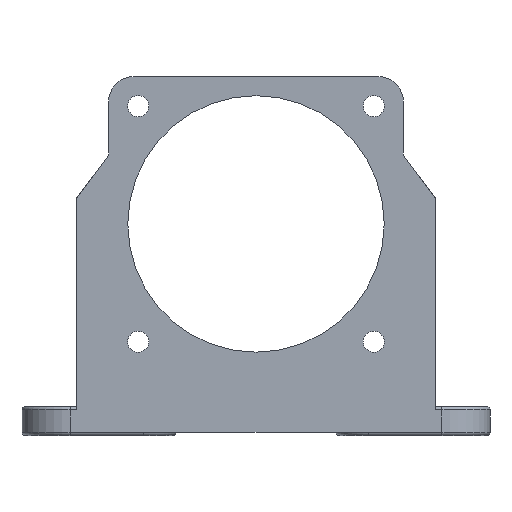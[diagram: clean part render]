
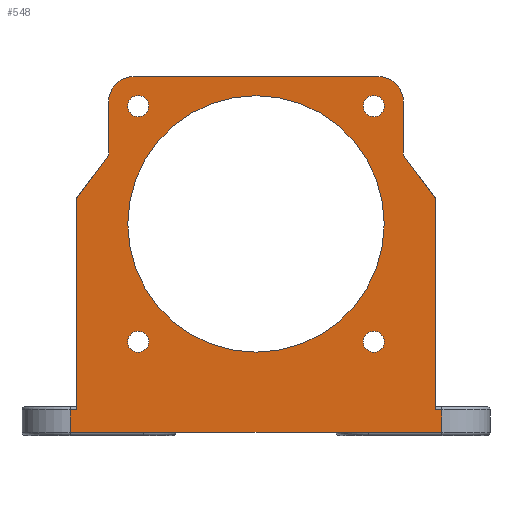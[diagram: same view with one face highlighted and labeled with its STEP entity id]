
A CAD part, front view. The second image highlights one B-rep face of the part: STEP entity #548.
In plain terms, the highlighted planar face has unit normal (0, -1, 0).
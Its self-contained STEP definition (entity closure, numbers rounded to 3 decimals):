
#73=CARTESIAN_POINT('',(38.0,0.,0.0));
#74=VERTEX_POINT('',#73);
#291=CARTESIAN_POINT('',(15.,0.,0.0));
#292=VERTEX_POINT('',#291);
#324=CARTESIAN_POINT('',(38.,0.,0.0));
#325=DIRECTION('',(-1.0,0.0,0.0));
#326=VECTOR('',#325,23.);
#327=LINE('',#324,#326);
#328=EDGE_CURVE('',#74,#292,#327,.T.);
#346=CARTESIAN_POINT('',(15.,0.,7.));
#347=VERTEX_POINT('',#346);
#348=CARTESIAN_POINT('',(15.,0.,0.0));
#349=DIRECTION('',(0.0,0.0,1.0));
#350=VECTOR('',#349,7.);
#351=LINE('',#348,#350);
#352=EDGE_CURVE('',#292,#347,#351,.T.);
#372=CARTESIAN_POINT('',(146.0,0.,0.0));
#373=DIRECTION('',(0.0,-1.0,0.0));
#374=DIRECTION('',(0.0,0.0,-1.0));
#375=AXIS2_PLACEMENT_3D('',#372,#373,#374);
#376=PLANE('',#375);
#377=ORIENTED_EDGE('',*,*,#328,.F.);
#378=CARTESIAN_POINT('',(108.0,0.,0.0));
#379=VERTEX_POINT('',#378);
#380=CARTESIAN_POINT('',(108.0,0.,0.0));
#381=DIRECTION('',(-1.0,0.0,0.0));
#382=VECTOR('',#381,70.0);
#383=LINE('',#380,#382);
#384=EDGE_CURVE('',#379,#74,#383,.T.);
#385=ORIENTED_EDGE('',*,*,#384,.F.);
#386=CARTESIAN_POINT('',(131.0,0.,0.0));
#387=VERTEX_POINT('',#386);
#388=CARTESIAN_POINT('',(131.,0.,0.0));
#389=DIRECTION('',(-1.0,0.0,0.0));
#390=VECTOR('',#389,23.0);
#391=LINE('',#388,#390);
#392=EDGE_CURVE('',#387,#379,#391,.T.);
#393=ORIENTED_EDGE('',*,*,#392,.F.);
#394=CARTESIAN_POINT('',(131.0,0.,7.));
#395=VERTEX_POINT('',#394);
#396=CARTESIAN_POINT('',(131.0,0.,7.));
#397=DIRECTION('',(0.0,0.0,-1.0));
#398=VECTOR('',#397,7.);
#399=LINE('',#396,#398);
#400=EDGE_CURVE('',#395,#387,#399,.T.);
#401=ORIENTED_EDGE('',*,*,#400,.F.);
#402=CARTESIAN_POINT('',(129.,0.,7.));
#403=VERTEX_POINT('',#402);
#404=CARTESIAN_POINT('',(129.,0.,7.));
#405=DIRECTION('',(1.0,0.0,0.0));
#406=VECTOR('',#405,2.0);
#407=LINE('',#404,#406);
#408=EDGE_CURVE('',#403,#395,#407,.T.);
#409=ORIENTED_EDGE('',*,*,#408,.F.);
#410=CARTESIAN_POINT('',(129.0,0.,73.));
#411=VERTEX_POINT('',#410);
#412=CARTESIAN_POINT('',(129.0,0.0,7.0));
#413=DIRECTION('',(0.0,0.0,1.0));
#414=VECTOR('',#413,66.);
#415=LINE('',#412,#414);
#416=EDGE_CURVE('',#403,#411,#415,.T.);
#417=ORIENTED_EDGE('',*,*,#416,.T.);
#418=CARTESIAN_POINT('',(119.,0.,86.5));
#419=VERTEX_POINT('',#418);
#420=CARTESIAN_POINT('',(129.0,0.,73.0));
#421=DIRECTION('',(-0.595,0.,0.804));
#422=VECTOR('',#421,16.8);
#423=LINE('',#420,#422);
#424=EDGE_CURVE('',#411,#419,#423,.T.);
#425=ORIENTED_EDGE('',*,*,#424,.T.);
#426=CARTESIAN_POINT('',(119.0,0.,103.0));
#427=VERTEX_POINT('',#426);
#428=CARTESIAN_POINT('',(119.,0.,86.5));
#429=DIRECTION('',(0.0,0.0,1.0));
#430=VECTOR('',#429,16.5);
#431=LINE('',#428,#430);
#432=EDGE_CURVE('',#419,#427,#431,.T.);
#433=ORIENTED_EDGE('',*,*,#432,.T.);
#434=CARTESIAN_POINT('',(111.0,0.,111.));
#435=VERTEX_POINT('',#434);
#436=CARTESIAN_POINT('',(111.0,0.,103.0));
#437=DIRECTION('',(0.,1.0,0.));
#438=DIRECTION('',(0.707,0.,0.707));
#439=AXIS2_PLACEMENT_3D('',#436,#437,#438);
#440=CIRCLE('',#439,8.);
#441=EDGE_CURVE('',#435,#427,#440,.T.);
#442=ORIENTED_EDGE('',*,*,#441,.F.);
#443=CARTESIAN_POINT('',(35.,0.,111.));
#444=VERTEX_POINT('',#443);
#445=CARTESIAN_POINT('',(111.0,0.,111.));
#446=DIRECTION('',(-1.0,0.0,0.0));
#447=VECTOR('',#446,76.0);
#448=LINE('',#445,#447);
#449=EDGE_CURVE('',#435,#444,#448,.T.);
#450=ORIENTED_EDGE('',*,*,#449,.T.);
#451=CARTESIAN_POINT('',(27.,0.,103.0));
#452=VERTEX_POINT('',#451);
#453=CARTESIAN_POINT('',(35.,0.,103.0));
#454=DIRECTION('',(0.,1.0,0.));
#455=DIRECTION('',(-0.707,0.,0.707));
#456=AXIS2_PLACEMENT_3D('',#453,#454,#455);
#457=CIRCLE('',#456,8.);
#458=EDGE_CURVE('',#452,#444,#457,.T.);
#459=ORIENTED_EDGE('',*,*,#458,.F.);
#460=CARTESIAN_POINT('',(27.,0.,86.5));
#461=VERTEX_POINT('',#460);
#462=CARTESIAN_POINT('',(27.,0.,103.0));
#463=DIRECTION('',(0.0,0.0,-1.0));
#464=VECTOR('',#463,16.5);
#465=LINE('',#462,#464);
#466=EDGE_CURVE('',#452,#461,#465,.T.);
#467=ORIENTED_EDGE('',*,*,#466,.T.);
#468=CARTESIAN_POINT('',(17.,0.,73.0));
#469=VERTEX_POINT('',#468);
#470=CARTESIAN_POINT('',(27.,0.,86.5));
#471=DIRECTION('',(-0.595,0.,-0.804));
#472=VECTOR('',#471,16.8);
#473=LINE('',#470,#472);
#474=EDGE_CURVE('',#461,#469,#473,.T.);
#475=ORIENTED_EDGE('',*,*,#474,.T.);
#476=CARTESIAN_POINT('',(17.,0.,7.));
#477=VERTEX_POINT('',#476);
#478=CARTESIAN_POINT('',(17.,0.,7.0));
#479=DIRECTION('',(0.0,0.0,1.0));
#480=VECTOR('',#479,66.);
#481=LINE('',#478,#480);
#482=EDGE_CURVE('',#477,#469,#481,.T.);
#483=ORIENTED_EDGE('',*,*,#482,.F.);
#484=CARTESIAN_POINT('',(15.0,0.,7.));
#485=DIRECTION('',(1.0,0.0,0.0));
#486=VECTOR('',#485,2.);
#487=LINE('',#484,#486);
#488=EDGE_CURVE('',#347,#477,#487,.T.);
#489=ORIENTED_EDGE('',*,*,#488,.F.);
#490=ORIENTED_EDGE('',*,*,#352,.F.);
#491=EDGE_LOOP('',(#377,#385,#393,#401,#409,#417,#425,#433,#442,#450,#459,#467,#475,#483,#489,#490));
#492=FACE_OUTER_BOUND('',#491,.T.);
#493=CARTESIAN_POINT('',(113.0,0.,65.));
#494=VERTEX_POINT('',#493);
#495=CARTESIAN_POINT('',(73.0,0.,65.));
#496=DIRECTION('',(0.0,1.0,0.0));
#497=DIRECTION('',(-1.0,0.0,0.0));
#498=AXIS2_PLACEMENT_3D('',#495,#496,#497);
#499=CIRCLE('',#498,40.0);
#500=EDGE_CURVE('',#494,#494,#499,.T.);
#501=ORIENTED_EDGE('',*,*,#500,.T.);
#502=EDGE_LOOP('',(#501));
#503=FACE_BOUND('',#502,.T.);
#504=CARTESIAN_POINT('',(113.07,0.,101.77));
#505=VERTEX_POINT('',#504);
#506=CARTESIAN_POINT('',(109.77,0.,101.77));
#507=DIRECTION('',(0.0,1.0,0.0));
#508=DIRECTION('',(-1.0,0.0,0.0));
#509=AXIS2_PLACEMENT_3D('',#506,#507,#508);
#510=CIRCLE('',#509,3.3);
#511=EDGE_CURVE('',#505,#505,#510,.T.);
#512=ORIENTED_EDGE('',*,*,#511,.T.);
#513=EDGE_LOOP('',(#512));
#514=FACE_BOUND('',#513,.T.);
#515=CARTESIAN_POINT('',(36.23,0.,105.07));
#516=VERTEX_POINT('',#515);
#517=CARTESIAN_POINT('',(36.23,0.,101.77));
#518=DIRECTION('',(0.0,1.0,0.0));
#519=DIRECTION('',(0.0,0.0,-1.0));
#520=AXIS2_PLACEMENT_3D('',#517,#518,#519);
#521=CIRCLE('',#520,3.3);
#522=EDGE_CURVE('',#516,#516,#521,.T.);
#523=ORIENTED_EDGE('',*,*,#522,.T.);
#524=EDGE_LOOP('',(#523));
#525=FACE_BOUND('',#524,.T.);
#526=CARTESIAN_POINT('',(32.93,0.,28.23));
#527=VERTEX_POINT('',#526);
#528=CARTESIAN_POINT('',(36.23,0.,28.23));
#529=DIRECTION('',(0.0,1.0,0.0));
#530=DIRECTION('',(1.0,0.0,0.0));
#531=AXIS2_PLACEMENT_3D('',#528,#529,#530);
#532=CIRCLE('',#531,3.3);
#533=EDGE_CURVE('',#527,#527,#532,.T.);
#534=ORIENTED_EDGE('',*,*,#533,.T.);
#535=EDGE_LOOP('',(#534));
#536=FACE_BOUND('',#535,.T.);
#537=CARTESIAN_POINT('',(109.77,0.,24.93));
#538=VERTEX_POINT('',#537);
#539=CARTESIAN_POINT('',(109.77,0.,28.23));
#540=DIRECTION('',(0.0,1.0,0.0));
#541=DIRECTION('',(0.0,0.0,1.0));
#542=AXIS2_PLACEMENT_3D('',#539,#540,#541);
#543=CIRCLE('',#542,3.3);
#544=EDGE_CURVE('',#538,#538,#543,.T.);
#545=ORIENTED_EDGE('',*,*,#544,.T.);
#546=EDGE_LOOP('',(#545));
#547=FACE_BOUND('',#546,.T.);
#548=ADVANCED_FACE('',(#492,#503,#514,#525,#536,#547),#376,.T.);
